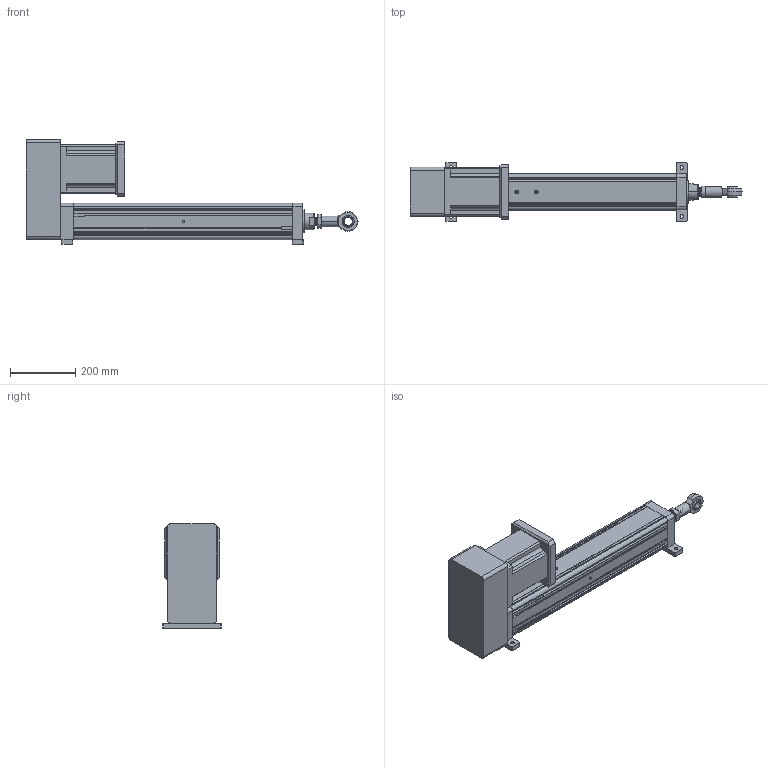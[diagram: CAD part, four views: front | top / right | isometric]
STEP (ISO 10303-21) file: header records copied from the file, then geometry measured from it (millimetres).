
FILE_DESCRIPTION (( 'STEP AP203' ), '1' );
FILE_NAME ('YRJ110-L500-H2K3.STEP', '2020-01-04T06:14:29', ( 'User' ), ( 'China' ), 'SwSTEP 2.0', 'SolidWorks 2016', '' );
FILE_SCHEMA (( 'CONFIG_CONTROL_DESIGN' ));
Length unit declared in the file: millimetre
Products named in the file (11): 萇儂碟-110; H2-110-1; H2-110-2; K1-110; _BNC01-SI25T_K-R-001; _BNC01-SI25T_K-R-002; BNC01-SI25T_K-R; K3-110; YRJ110-L500-H2K3; 095-100俴最倰第; 142熬厒儂
Assembly tree (10 placements, depth 4):
  YRJ110-L500-H2K3
    095-100俴最倰第
    萇儂碟-110
    142熬厒儂
    H2-110-1
    H2-110-2
    K3-110
      K1-110
      BNC01-SI25T_K-R
        _BNC01-SI25T_K-R-001
        _BNC01-SI25T_K-R-002
Bounding box: 1015 x 180 x 320 mm (x, y, z)
Volume: 12843489.2 mm3; surface area: 1120198.1 mm2
Topology: 8 solids, 8 shells, 410 faces, 1133 edges, 729 vertices
Faces by surface type: plane 196, cylinder 166, cone 34, bspline 14
Entity records: 23179 total; most frequent: CARTESIAN_POINT 11776, ORIENTED_EDGE 2210, DIRECTION 2050, EDGE_CURVE 1105, VERTEX_POINT 729, LINE 684, VECTOR 684, AXIS2_PLACEMENT_3D 683
